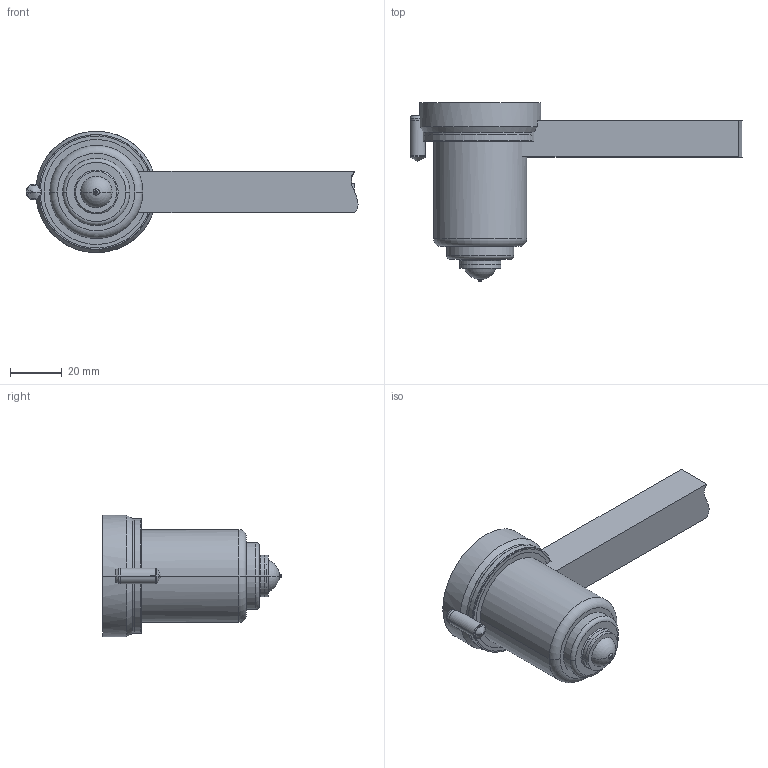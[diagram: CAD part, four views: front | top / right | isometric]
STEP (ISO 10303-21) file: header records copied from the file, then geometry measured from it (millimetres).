
FILE_DESCRIPTION((''),'2;1');
FILE_NAME('SV370002-TYPE2_ASM','2016-11-10T',('benoit'),(''),'PRO/ENGINEER BY PARAMETRIC TECHNOLOGY CORPORATION, 2007450','PRO/ENGINEER BY PARAMETRIC TECHNOLOGY CORPORATION, 2007450','');
FILE_SCHEMA(('CONFIG_CONTROL_DESIGN'));
Length unit declared in the file: millimetre
Products named in the file (8): MB370002; TP370502; TP370403_CLIENT; GOUPILLE-6-16; BF370000; 25X1_2E; SV9-POCHE-69-T2; SV370002-TYPE2_ASM
Assembly tree (7 placements, depth 2):
  SV370002-TYPE2_ASM
    MB370002
    TP370502
    TP370403_CLIENT
    GOUPILLE-6-16
    BF370000
    25X1_2E
    SV9-POCHE-69-T2
Bounding box: 128.54 x 69.14 x 47 mm (x, y, z)
Volume: 135995.7 mm3; surface area: 46223.6 mm2
Topology: 10 solids, 10 shells, 244 faces, 578 edges, 357 vertices
Faces by surface type: cylinder 93, plane 61, cone 54, torus 15, bspline 14, sphere 6, extrusion 1
Entity records: 10252 total; most frequent: CARTESIAN_POINT 4472, DIRECTION 1235, ORIENTED_EDGE 1140, EDGE_CURVE 570, AXIS2_PLACEMENT_3D 514, VERTEX_POINT 357, CIRCLE 270, EDGE_LOOP 265
